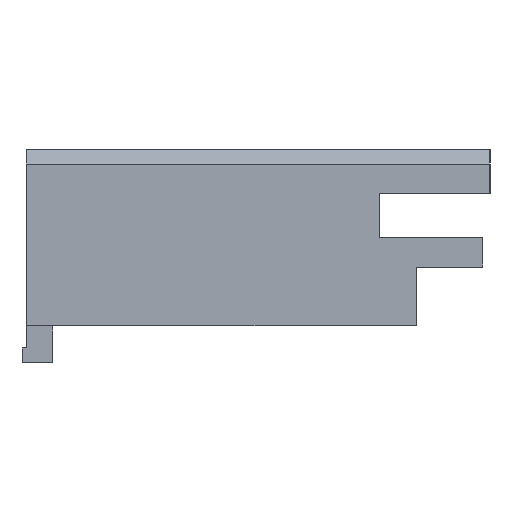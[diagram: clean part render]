
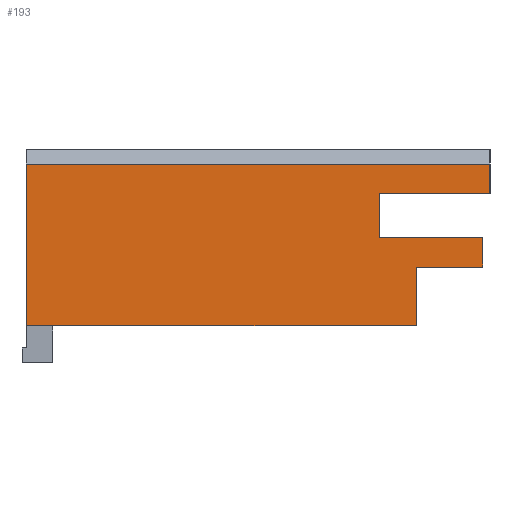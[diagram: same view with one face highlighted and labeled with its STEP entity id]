
A CAD part, left-side view. The second image highlights one B-rep face of the part: STEP entity #193.
In plain terms, the highlighted planar face has unit normal (-1, 0, 0).
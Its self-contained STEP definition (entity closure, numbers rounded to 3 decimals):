
#193=ADVANCED_FACE('',(#463),#328,.T.);
#328=PLANE('',#2996);
#463=FACE_OUTER_BOUND('',#595,.T.);
#595=EDGE_LOOP('',(#893,#894,#895,#896,#897,#898,#899,#900,#901,#902));
#893=ORIENTED_EDGE('',*,*,#1825,.F.);
#894=ORIENTED_EDGE('',*,*,#1827,.F.);
#895=ORIENTED_EDGE('',*,*,#1832,.F.);
#896=ORIENTED_EDGE('',*,*,#1841,.F.);
#897=ORIENTED_EDGE('',*,*,#1890,.T.);
#898=ORIENTED_EDGE('',*,*,#1891,.T.);
#899=ORIENTED_EDGE('',*,*,#1892,.F.);
#900=ORIENTED_EDGE('',*,*,#1853,.T.);
#901=ORIENTED_EDGE('',*,*,#1838,.F.);
#902=ORIENTED_EDGE('',*,*,#1884,.F.);
#1539=VERTEX_POINT('',#3895);
#1540=VERTEX_POINT('',#3897);
#1541=VERTEX_POINT('',#3901);
#1544=VERTEX_POINT('',#3909);
#1545=VERTEX_POINT('',#3913);
#1550=VERTEX_POINT('',#3922);
#1552=VERTEX_POINT('',#3928);
#1559=VERTEX_POINT('',#3953);
#1577=VERTEX_POINT('',#4024);
#1578=VERTEX_POINT('',#4026);
#1825=EDGE_CURVE('',#1539,#1540,#2227,.T.);
#1827=EDGE_CURVE('',#1541,#1539,#2229,.T.);
#1832=EDGE_CURVE('',#1544,#1541,#2234,.T.);
#1838=EDGE_CURVE('',#1550,#1545,#2240,.T.);
#1841=EDGE_CURVE('',#1552,#1544,#2243,.T.);
#1853=EDGE_CURVE('',#1559,#1545,#2255,.T.);
#1884=EDGE_CURVE('',#1540,#1550,#2286,.T.);
#1890=EDGE_CURVE('',#1552,#1577,#2292,.T.);
#1891=EDGE_CURVE('',#1577,#1578,#2293,.T.);
#1892=EDGE_CURVE('',#1559,#1578,#2294,.T.);
#2227=LINE('',#3896,#2617);
#2229=LINE('',#3900,#2619);
#2234=LINE('',#3910,#2624);
#2240=LINE('',#3923,#2630);
#2243=LINE('',#3929,#2633);
#2255=LINE('',#3952,#2645);
#2286=LINE('',#4012,#2676);
#2292=LINE('',#4023,#2682);
#2293=LINE('',#4025,#2683);
#2294=LINE('',#4027,#2684);
#2617=VECTOR('',#3183,1.);
#2619=VECTOR('',#3187,1.);
#2624=VECTOR('',#3194,1.);
#2630=VECTOR('',#3202,1.);
#2633=VECTOR('',#3207,1.);
#2645=VECTOR('',#3229,1.);
#2676=VECTOR('',#3286,1.);
#2682=VECTOR('',#3298,1.);
#2683=VECTOR('',#3299,1.);
#2684=VECTOR('',#3300,1.);
#2996=AXIS2_PLACEMENT_3D('',#4028,#3301,#3302);
#3183=DIRECTION('',(0.,0.,-1.));
#3187=DIRECTION('',(0.,-1.,0.));
#3194=DIRECTION('',(0.,0.,-1.));
#3202=DIRECTION('',(0.,0.,-1.));
#3207=DIRECTION('',(0.,1.,0.));
#3229=DIRECTION('',(0.,-1.,0.));
#3286=DIRECTION('',(0.,1.,0.));
#3298=DIRECTION('',(0.,0.,1.));
#3299=DIRECTION('',(0.,1.,0.));
#3300=DIRECTION('',(0.,0.,1.));
#3301=DIRECTION('',(-1.,0.,0.));
#3302=DIRECTION('',(0.,0.,1.));
#3895=CARTESIAN_POINT('',(-17.038,-12.75,5.855));
#3896=CARTESIAN_POINT('',(-17.038,-12.75,-0.145));
#3897=CARTESIAN_POINT('',(-17.038,-12.75,3.855));
#3900=CARTESIAN_POINT('',(-17.038,2.5,5.855));
#3901=CARTESIAN_POINT('',(-17.038,-5.75,5.855));
#3909=CARTESIAN_POINT('',(-17.038,-5.75,8.855));
#3910=CARTESIAN_POINT('',(-17.038,-5.75,-0.145));
#3913=CARTESIAN_POINT('',(-17.038,-8.25,-0.145));
#3922=CARTESIAN_POINT('',(-17.038,-8.25,3.855));
#3923=CARTESIAN_POINT('',(-17.038,-8.25,-0.145));
#3928=CARTESIAN_POINT('',(-17.038,-13.25,8.855));
#3929=CARTESIAN_POINT('',(-17.038,2.5,8.855));
#3952=CARTESIAN_POINT('',(-17.038,2.5,-0.145));
#3953=CARTESIAN_POINT('',(-17.038,18.25,-0.145));
#4012=CARTESIAN_POINT('',(-17.038,2.5,3.855));
#4023=CARTESIAN_POINT('',(-17.038,-13.25,-0.145));
#4024=CARTESIAN_POINT('',(-17.038,-13.25,10.855));
#4025=CARTESIAN_POINT('',(-17.038,2.5,10.855));
#4026=CARTESIAN_POINT('',(-17.038,18.25,10.855));
#4027=CARTESIAN_POINT('',(-17.038,18.25,-0.145));
#4028=CARTESIAN_POINT('',(-17.038,2.5,-0.145));
